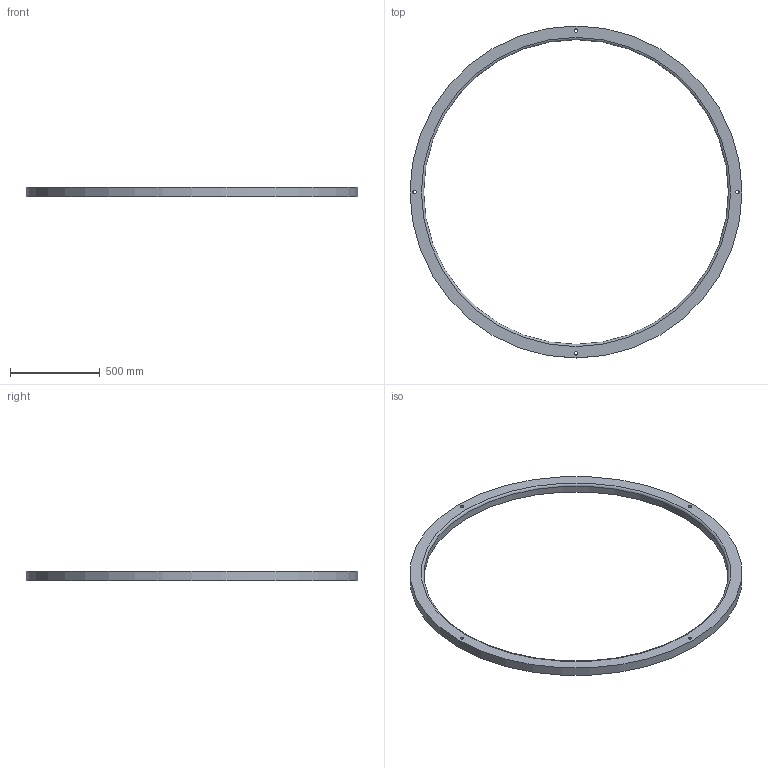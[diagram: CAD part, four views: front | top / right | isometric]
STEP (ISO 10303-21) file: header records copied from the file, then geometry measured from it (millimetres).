
FILE_DESCRIPTION( ( 'Unknown' ), '1' );
FILE_NAME( 'C:/Users/Lee/Documents/HGC Work/Solid Edge/heavy_gas_cherenkov_v5/step/window_clamp.stp', 'Unknown', ( 'Unknown' ), ( 'Unknown' ), 'PSStep 13.0', 'Unknown', ' ' );
FILE_SCHEMA( ( 'AUTOMOTIVE_DESIGN { 1 0 10303 214 1 1 1 1 }' ) );
Length unit declared in the file: millimetre
Products named in the file (1): 1
Bounding box: 1852.4 x 1852.4 x 50.8 mm (x, y, z)
Volume: 21356939.6 mm3; surface area: 1398185.6 mm2
Topology: 1 solids, 1 shells, 9 faces, 25 edges, 18 vertices
Faces by surface type: cylinder 6, plane 2, torus 1
Full cylindrical faces by diameter (mm): 19.05 x4, 1700 x1, 1852.4 x1
Entity records: 332 total; most frequent: DIRECTION 46, CARTESIAN_POINT 36, EDGE_LOOP 26, ORIENTED_EDGE 26, AXIS2_PLACEMENT_3D 23, FACE_OUTER_BOUND 16, EDGE_CURVE 13, VERTEX_POINT 13
